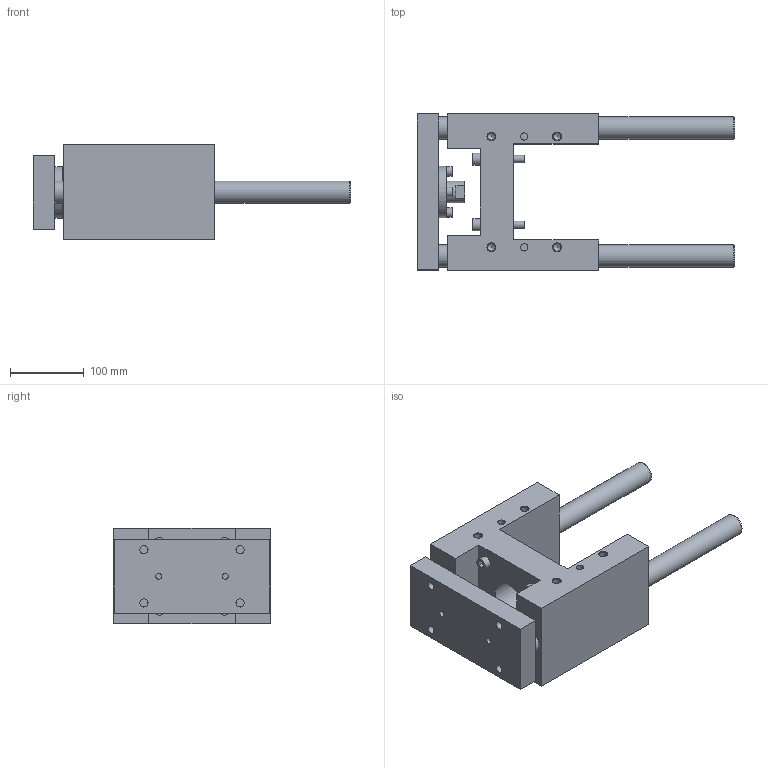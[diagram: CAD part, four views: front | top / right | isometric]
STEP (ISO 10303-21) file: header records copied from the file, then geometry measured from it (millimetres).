
FILE_DESCRIPTION( ( 'STEP AP214' ), '1' );
FILE_NAME( 'U:/Etudes/Top Solid/BIBLIO 3D AVM/TOP/PNEUMATIQUE/GUIDAGES/Type 32 (en H)/R_Renforcée/329R3130.step', '2005-05-27T09:20:48', ( ' ' ), ( ' ' ), 'XStep 1.0', ' ', ' ' );
FILE_SCHEMA( ( 'automotive_design' ) );
Length unit declared in the file: metre
Products named in the file (2): 1; 2
Bounding box: 429 x 213 x 129 mm (x, y, z)
Volume: 3821029.7 mm3; surface area: 411740 mm2
Topology: 2 solids, 7 shells, 207 faces, 460 edges, 303 vertices
Faces by surface type: plane 118, cylinder 68, cone 21
Full cylindrical faces by diameter (mm): 8 x10, 8.5 x4, 10 x10, 10.106 x12, 11 x8, 13 x4, 16 x4, 18 x4, 18.376 x2, 29 x1, 30 x4, 32 x1, 42 x1, 45 x1, 55 x1, 70 x1
Entity records: 6989 total; most frequent: CARTESIAN_POINT 1089, DIRECTION 880, ORIENTED_EDGE 678, EDGE_LOOP 360, AXIS2_PLACEMENT_3D 340, EDGE_CURVE 339, VERTEX_POINT 277, FACE_OUTER_BOUND 275
